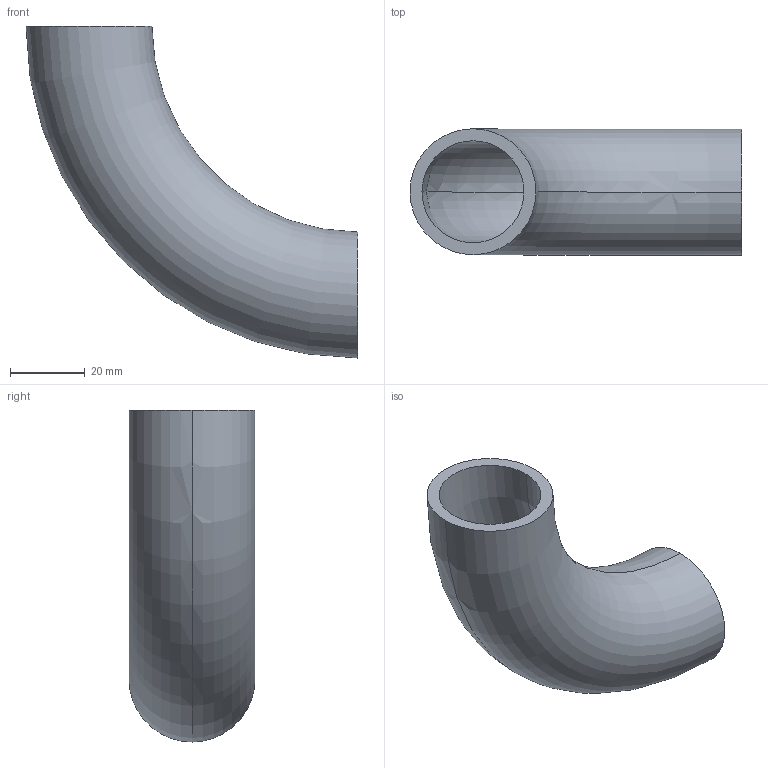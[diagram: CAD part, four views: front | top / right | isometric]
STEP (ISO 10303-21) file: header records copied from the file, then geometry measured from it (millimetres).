
FILE_DESCRIPTION (( 'STEP AP203' ), '1' );
FILE_NAME ('3D_R1655_33.7x3.2_17362160_17362570.STEP', '2024-08-05T08:46:35', ( '' ), ( '' ), 'SwSTEP 2.0', 'SolidWorks 2024', '' );
FILE_SCHEMA (( 'CONFIG_CONTROL_DESIGN' ));
Length unit declared in the file: millimetre
Products named in the file (1): 3D_R1655_33.7x3.2_17362160_17362570
Bounding box: 88.85 x 33.7 x 88.85 mm (x, y, z)
Volume: 34677.8 mm3; surface area: 22286.9 mm2
Topology: 1 solids, 1 shells, 6 faces, 12 edges, 8 vertices
Faces by surface type: torus 4, plane 2
Entity records: 249 total; most frequent: DIRECTION 38, CARTESIAN_POINT 27, ORIENTED_EDGE 24, AXIS2_PLACEMENT_3D 19, EDGE_CURVE 12, CIRCLE 12, PERSON_AND_ORGANIZATION 8, EDGE_LOOP 8
